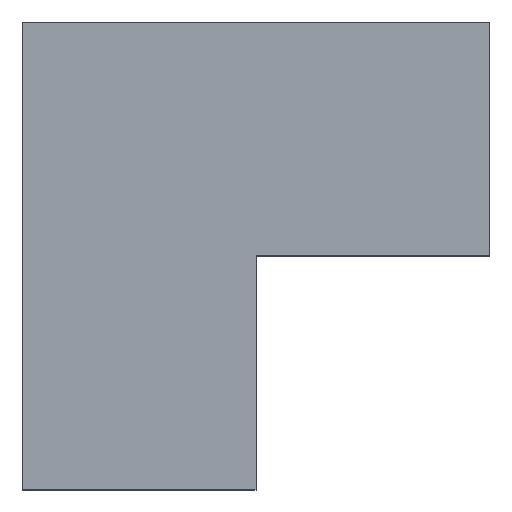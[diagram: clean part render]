
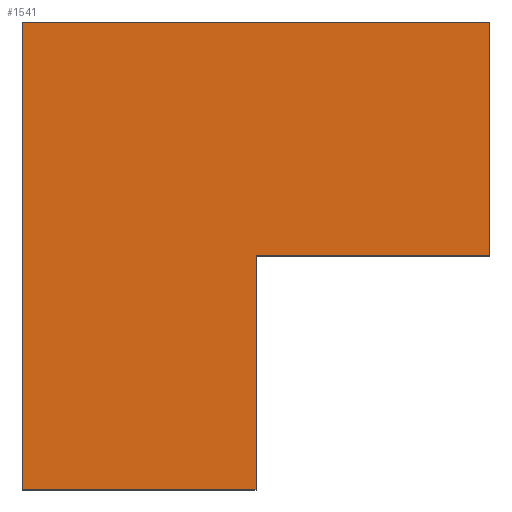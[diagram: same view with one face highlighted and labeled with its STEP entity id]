
A CAD part, top view. The second image highlights one B-rep face of the part: STEP entity #1541.
In plain terms, the highlighted planar face has unit normal (0, 0, 1).
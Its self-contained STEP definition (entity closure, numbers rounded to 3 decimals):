
#278=ORIENTED_EDGE('',*,*,#604,.T.);
#279=ORIENTED_EDGE('',*,*,#608,.T.);
#280=ORIENTED_EDGE('',*,*,#611,.T.);
#281=ORIENTED_EDGE('',*,*,#614,.T.);
#282=ORIENTED_EDGE('',*,*,#617,.T.);
#283=ORIENTED_EDGE('',*,*,#619,.T.);
#604=EDGE_CURVE('',#785,#784,#964,.T.);
#608=EDGE_CURVE('',#784,#787,#968,.T.);
#611=EDGE_CURVE('',#787,#789,#971,.T.);
#614=EDGE_CURVE('',#789,#791,#974,.T.);
#617=EDGE_CURVE('',#791,#793,#977,.T.);
#619=EDGE_CURVE('',#793,#785,#979,.T.);
#784=VERTEX_POINT('',#2356);
#785=VERTEX_POINT('',#2358);
#787=VERTEX_POINT('',#2364);
#789=VERTEX_POINT('',#2370);
#791=VERTEX_POINT('',#2376);
#793=VERTEX_POINT('',#2382);
#964=LINE('',#2357,#1180);
#968=LINE('',#2365,#1184);
#971=LINE('',#2371,#1187);
#974=LINE('',#2377,#1190);
#977=LINE('',#2383,#1193);
#979=LINE('',#2386,#1195);
#1180=VECTOR('',#1903,1000.);
#1184=VECTOR('',#1909,1000.);
#1187=VECTOR('',#1914,1000.);
#1190=VECTOR('',#1919,1000.);
#1193=VECTOR('',#1924,1000.);
#1195=VECTOR('',#1928,1000.);
#1294=EDGE_LOOP('',(#278,#279,#280,#281,#282,#283));
#1380=FACE_BOUND('',#1294,.T.);
#1461=PLANE('',#1634);
#1541=ADVANCED_FACE('',(#1380),#1461,.T.);
#1634=AXIS2_PLACEMENT_3D('',#2387,#1929,#1930);
#1903=DIRECTION('',(-1.,0.,0.));
#1909=DIRECTION('',(0.,-1.,0.));
#1914=DIRECTION('',(1.,0.,0.));
#1919=DIRECTION('',(0.,1.,0.));
#1924=DIRECTION('',(1.,0.,0.));
#1928=DIRECTION('',(0.,1.,0.));
#1929=DIRECTION('',(0.,0.,1.));
#1930=DIRECTION('',(1.,0.,0.));
#2356=CARTESIAN_POINT('',(-30.,30.,5.));
#2357=CARTESIAN_POINT('',(30.,30.,5.));
#2358=CARTESIAN_POINT('',(30.,30.,5.));
#2364=CARTESIAN_POINT('',(-30.,-30.,5.));
#2365=CARTESIAN_POINT('',(-30.,30.,5.));
#2370=CARTESIAN_POINT('',(0.,-30.,5.));
#2371=CARTESIAN_POINT('',(-30.,-30.,5.));
#2376=CARTESIAN_POINT('',(0.,0.,5.));
#2377=CARTESIAN_POINT('',(0.,-30.,5.));
#2382=CARTESIAN_POINT('',(30.,0.,5.));
#2383=CARTESIAN_POINT('',(0.,0.,5.));
#2386=CARTESIAN_POINT('',(30.,0.,5.));
#2387=CARTESIAN_POINT('',(0.,0.,5.));
